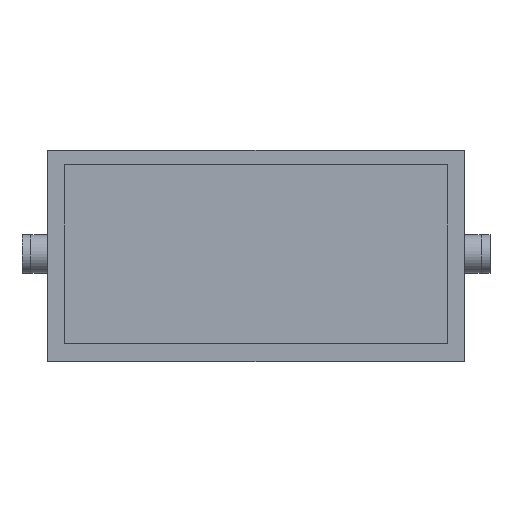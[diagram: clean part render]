
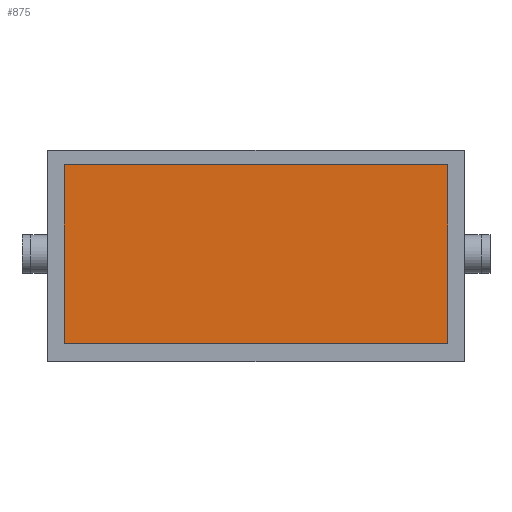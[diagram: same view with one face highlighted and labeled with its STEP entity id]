
A CAD part, left-side view. The second image highlights one B-rep face of the part: STEP entity #875.
In plain terms, the highlighted planar face has unit normal (-1, 0, 0) as drawn and (0, 0, -1) by its records, which use the part's own axes.
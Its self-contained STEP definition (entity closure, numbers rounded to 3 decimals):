
#64=FACE_OUTER_BOUND('',#115,.T.);
#115=EDGE_LOOP('',(#599,#600,#601,#602));
#170=LINE('',#1283,#275);
#174=LINE('',#1290,#279);
#177=LINE('',#1296,#282);
#179=LINE('',#1299,#284);
#275=VECTOR('',#1029,10.);
#279=VECTOR('',#1035,10.);
#282=VECTOR('',#1040,10.);
#284=VECTOR('',#1044,10.);
#380=VERTEX_POINT('',#1280);
#381=VERTEX_POINT('',#1282);
#383=VERTEX_POINT('',#1288);
#385=VERTEX_POINT('',#1294);
#462=EDGE_CURVE('',#380,#381,#170,.T.);
#466=EDGE_CURVE('',#383,#380,#174,.T.);
#469=EDGE_CURVE('',#385,#383,#177,.T.);
#471=EDGE_CURVE('',#381,#385,#179,.T.);
#599=ORIENTED_EDGE('',*,*,#471,.F.);
#600=ORIENTED_EDGE('',*,*,#462,.F.);
#601=ORIENTED_EDGE('',*,*,#466,.F.);
#602=ORIENTED_EDGE('',*,*,#469,.F.);
#833=PLANE('',#953);
#875=ADVANCED_FACE('',(#64),#833,.F.);
#953=AXIS2_PLACEMENT_3D('',#1300,#1045,#1046);
#1029=DIRECTION('',(0.,-1.,0.));
#1035=DIRECTION('',(-1.,0.,0.));
#1040=DIRECTION('',(0.,1.,0.));
#1044=DIRECTION('',(1.,0.,0.));
#1045=DIRECTION('center_axis',(0.,0.,1.));
#1046=DIRECTION('ref_axis',(1.,0.,0.));
#1280=CARTESIAN_POINT('',(-149.7,322.5,-27.443));
#1282=CARTESIAN_POINT('',(-149.7,-322.5,-27.443));
#1283=CARTESIAN_POINT('',(-149.7,322.5,-27.443));
#1288=CARTESIAN_POINT('',(150.3,322.5,-27.443));
#1290=CARTESIAN_POINT('',(-157.2,322.5,-27.443));
#1294=CARTESIAN_POINT('',(150.3,-322.5,-27.443));
#1296=CARTESIAN_POINT('',(150.3,-322.5,-27.443));
#1299=CARTESIAN_POINT('',(157.8,-322.5,-27.443));
#1300=CARTESIAN_POINT('Origin',(0.3,0.,-27.443));
